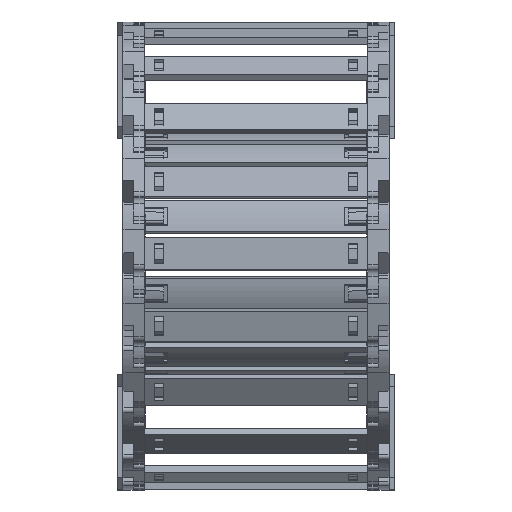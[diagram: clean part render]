
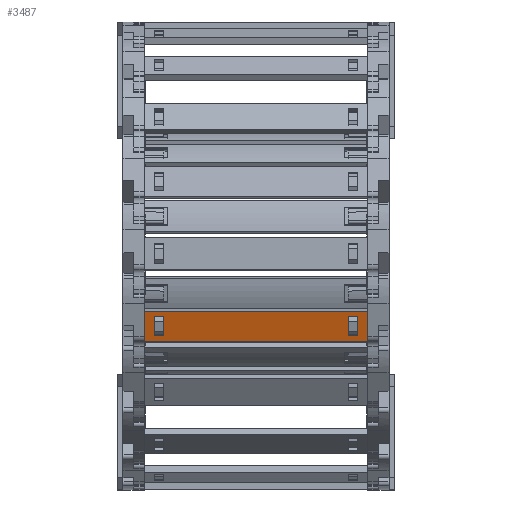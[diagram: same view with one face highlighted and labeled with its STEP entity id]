
A CAD part, top view. The second image highlights one B-rep face of the part: STEP entity #3487.
In plain terms, the highlighted planar face has unit normal (0, -0.302, 0.953) as drawn and (0, 0, -1) by its records, which use the part's own axes.
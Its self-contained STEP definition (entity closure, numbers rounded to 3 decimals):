
#2967=DIRECTION('',(-1.,0.,0.));
#2968=VECTOR('',#2967,18.);
#2969=CARTESIAN_POINT('',(9.,-100.25,0.));
#2970=LINE('',#2969,#2968);
#3005=DIRECTION('',(0.,1.,0.));
#3006=VECTOR('',#3005,5.56);
#3007=CARTESIAN_POINT('',(-5.55,14.2,0.));
#3008=LINE('',#3007,#3006);
#3009=DIRECTION('',(1.,0.,0.));
#3010=VECTOR('',#3009,11.1);
#3011=CARTESIAN_POINT('',(-5.55,19.76,0.));
#3012=LINE('',#3011,#3010);
#3013=DIRECTION('',(0.,-1.,0.));
#3014=VECTOR('',#3013,5.56);
#3015=CARTESIAN_POINT('',(5.55,19.76,0.));
#3016=LINE('',#3015,#3014);
#3017=DIRECTION('',(-1.,0.,0.));
#3018=VECTOR('',#3017,11.1);
#3019=CARTESIAN_POINT('',(5.55,14.2,0.));
#3020=LINE('',#3019,#3018);
#3025=DIRECTION('',(1.,0.,0.));
#3026=VECTOR('',#3025,18.);
#3027=CARTESIAN_POINT('',(-9.,25.25,0.));
#3028=LINE('',#3027,#3026);
#3059=DIRECTION('',(0.,1.,0.));
#3060=VECTOR('',#3059,125.5);
#3061=CARTESIAN_POINT('',(-9.,-100.25,0.));
#3062=LINE('',#3061,#3060);
#3188=DIRECTION('',(0.,-1.,0.));
#3189=VECTOR('',#3188,125.5);
#3190=CARTESIAN_POINT('',(9.,25.25,0.));
#3191=LINE('',#3190,#3189);
#3253=DIRECTION('',(0.,-1.,0.));
#3254=VECTOR('',#3253,5.56);
#3255=CARTESIAN_POINT('',(-5.55,-89.2,0.));
#3256=LINE('',#3255,#3254);
#3265=DIRECTION('',(0.,1.,0.));
#3266=VECTOR('',#3265,5.56);
#3267=CARTESIAN_POINT('',(5.55,-94.76,0.));
#3268=LINE('',#3267,#3266);
#3277=DIRECTION('',(1.,0.,0.));
#3278=VECTOR('',#3277,11.1);
#3279=CARTESIAN_POINT('',(-5.55,-94.76,0.));
#3280=LINE('',#3279,#3278);
#3289=DIRECTION('',(-1.,0.,0.));
#3290=VECTOR('',#3289,11.1);
#3291=CARTESIAN_POINT('',(5.55,-89.2,0.));
#3292=LINE('',#3291,#3290);
#3341=CARTESIAN_POINT('',(9.,-100.25,0.));
#3342=CARTESIAN_POINT('',(-9.,-100.25,0.));
#3343=VERTEX_POINT('',#3341);
#3344=VERTEX_POINT('',#3342);
#3365=CARTESIAN_POINT('',(-5.55,-89.2,0.));
#3366=CARTESIAN_POINT('',(-5.55,-94.76,0.));
#3367=VERTEX_POINT('',#3365);
#3368=VERTEX_POINT('',#3366);
#3369=CARTESIAN_POINT('',(5.55,-89.2,0.));
#3370=VERTEX_POINT('',#3369);
#3371=CARTESIAN_POINT('',(5.55,-94.76,0.));
#3372=VERTEX_POINT('',#3371);
#3397=CARTESIAN_POINT('',(-9.,25.25,0.));
#3398=CARTESIAN_POINT('',(9.,25.25,0.));
#3399=VERTEX_POINT('',#3397);
#3400=VERTEX_POINT('',#3398);
#3401=CARTESIAN_POINT('',(-5.55,14.2,0.));
#3402=CARTESIAN_POINT('',(-5.55,19.76,0.));
#3403=VERTEX_POINT('',#3401);
#3404=VERTEX_POINT('',#3402);
#3405=CARTESIAN_POINT('',(5.55,19.76,0.));
#3406=VERTEX_POINT('',#3405);
#3407=CARTESIAN_POINT('',(5.55,14.2,0.));
#3408=VERTEX_POINT('',#3407);
#3453=CARTESIAN_POINT('',(8.,-100.25,0.));
#3454=DIRECTION('',(0.,0.,-1.));
#3455=DIRECTION('',(-1.,0.,0.));
#3456=AXIS2_PLACEMENT_3D('',#3453,#3454,#3455);
#3457=PLANE('',#3456);
#3459=ORIENTED_EDGE('',*,*,#3458,.F.);
#3461=ORIENTED_EDGE('',*,*,#3460,.F.);
#3462=ORIENTED_EDGE('',*,*,#3426,.F.);
#3464=ORIENTED_EDGE('',*,*,#3463,.F.);
#3465=EDGE_LOOP('',(#3459,#3461,#3462,#3464));
#3466=FACE_OUTER_BOUND('',#3465,.F.);
#3468=ORIENTED_EDGE('',*,*,#3467,.T.);
#3470=ORIENTED_EDGE('',*,*,#3469,.T.);
#3472=ORIENTED_EDGE('',*,*,#3471,.T.);
#3474=ORIENTED_EDGE('',*,*,#3473,.T.);
#3475=EDGE_LOOP('',(#3468,#3470,#3472,#3474));
#3476=FACE_BOUND('',#3475,.F.);
#3478=ORIENTED_EDGE('',*,*,#3477,.F.);
#3480=ORIENTED_EDGE('',*,*,#3479,.F.);
#3482=ORIENTED_EDGE('',*,*,#3481,.F.);
#3484=ORIENTED_EDGE('',*,*,#3483,.F.);
#3485=EDGE_LOOP('',(#3478,#3480,#3482,#3484));
#3486=FACE_BOUND('',#3485,.F.);
#3487=ADVANCED_FACE('',(#3466,#3476,#3486),#3457,.T.);
#3426=EDGE_CURVE('',#3343,#3344,#2970,.T.);
#3458=EDGE_CURVE('',#3399,#3400,#3028,.T.);
#3460=EDGE_CURVE('',#3344,#3399,#3062,.T.);
#3463=EDGE_CURVE('',#3400,#3343,#3191,.T.);
#3467=EDGE_CURVE('',#3403,#3404,#3008,.T.);
#3469=EDGE_CURVE('',#3404,#3406,#3012,.T.);
#3471=EDGE_CURVE('',#3406,#3408,#3016,.T.);
#3473=EDGE_CURVE('',#3408,#3403,#3020,.T.);
#3477=EDGE_CURVE('',#3367,#3368,#3256,.T.);
#3479=EDGE_CURVE('',#3370,#3367,#3292,.T.);
#3481=EDGE_CURVE('',#3372,#3370,#3268,.T.);
#3483=EDGE_CURVE('',#3368,#3372,#3280,.T.);
